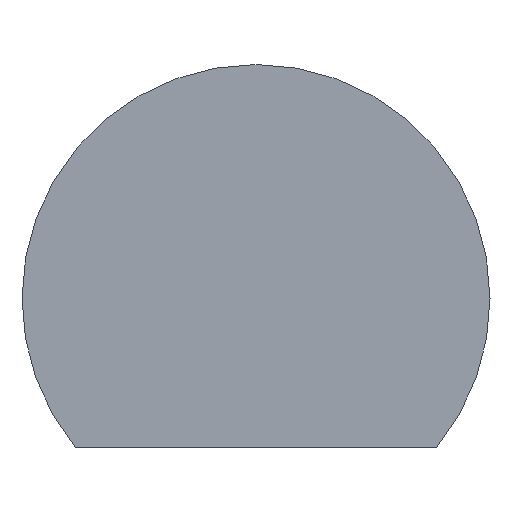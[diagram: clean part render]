
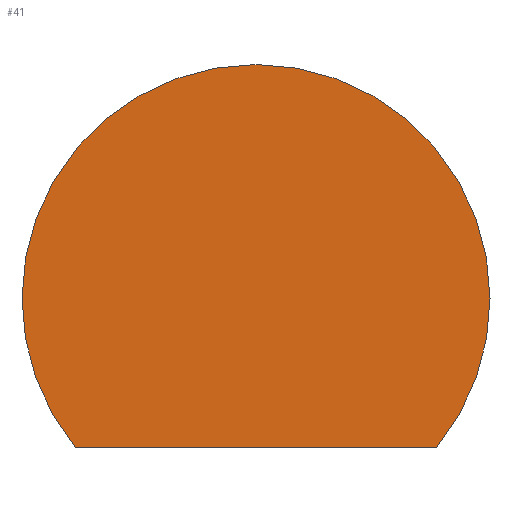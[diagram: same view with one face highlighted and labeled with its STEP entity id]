
A CAD part, left-side view. The second image highlights one B-rep face of the part: STEP entity #41.
In plain terms, the highlighted planar face has unit normal (-1, 0, 0).
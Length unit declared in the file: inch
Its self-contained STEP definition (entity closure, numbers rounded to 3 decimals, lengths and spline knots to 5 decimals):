
#19 = ORIENTED_EDGE ( 'NONE', *, *, #72, .T. ) ;
#20 = ORIENTED_EDGE ( 'NONE', *, *, #32, .T. ) ;
#31 = VERTEX_POINT ( 'NONE', #185 ) ;
#32 = EDGE_CURVE ( 'NONE', #31, #67, #183, .T. ) ;
#35 = ORIENTED_EDGE ( 'NONE', *, *, #36, .T. ) ;
#36 = EDGE_CURVE ( 'NONE', #67, #114, #228, .T. ) ;
#41 = ADVANCED_FACE ( 'NONE', ( #192 ), #194, .F. ) ;
#67 = VERTEX_POINT ( 'NONE', #246 ) ;
#72 = EDGE_CURVE ( 'NONE', #73, #31, #262, .T. ) ;
#73 = VERTEX_POINT ( 'NONE', #258 ) ;
#109 = EDGE_CURVE ( 'NONE', #73, #114, #381, .T. ) ;
#112 = ORIENTED_EDGE ( 'NONE', *, *, #109, .F. ) ;
#114 = VERTEX_POINT ( 'NONE', #386 ) ;
#116 = EDGE_LOOP ( 'NONE', ( #112, #19, #20, #35 ) ) ;
#179 = DIRECTION ( 'NONE',  ( 0., -1., 0. ) ) ;
#180 = DIRECTION ( 'NONE',  ( -1., 0., 0. ) ) ;
#181 = CARTESIAN_POINT ( 'NONE',  ( 0., 0., 0. ) ) ;
#182 = AXIS2_PLACEMENT_3D ( 'NONE', #181, #180, #179 ) ;
#183 = CIRCLE ( 'NONE', #182, 0.34375 ) ;
#185 = CARTESIAN_POINT ( 'NONE',  ( 0., -0.34375, 0. ) ) ;
#192 = FACE_OUTER_BOUND ( 'NONE', #116, .T. ) ;
#193 = AXIS2_PLACEMENT_3D ( 'NONE', #221, #220, #219 ) ;
#194 = PLANE ( 'NONE',  #193 ) ;
#195 = DIRECTION ( 'NONE',  ( 0., -1., 0. ) ) ;
#199 = AXIS2_PLACEMENT_3D ( 'NONE', #201, #200, #195 ) ;
#200 = DIRECTION ( 'NONE',  ( -1., 0., 0. ) ) ;
#201 = CARTESIAN_POINT ( 'NONE',  ( 0., 0., 0. ) ) ;
#219 = DIRECTION ( 'NONE',  ( 0., 1., 0. ) ) ;
#220 = DIRECTION ( 'NONE',  ( 1., 0., 0. ) ) ;
#221 = CARTESIAN_POINT ( 'NONE',  ( 0., 0., 0. ) ) ;
#228 = CIRCLE ( 'NONE', #199, 0.34375 ) ;
#246 = CARTESIAN_POINT ( 'NONE',  ( 0., 0.34375, 0. ) ) ;
#252 = CARTESIAN_POINT ( 'NONE',  ( 0., 0., 0. ) ) ;
#258 = CARTESIAN_POINT ( 'NONE',  ( 0., -0.26516, -0.21876 ) ) ;
#259 = DIRECTION ( 'NONE',  ( 0., -1., 0. ) ) ;
#260 = DIRECTION ( 'NONE',  ( -1., 0., 0. ) ) ;
#261 = AXIS2_PLACEMENT_3D ( 'NONE', #252, #260, #259 ) ;
#262 = CIRCLE ( 'NONE', #261, 0.34375 ) ;
#379 = DIRECTION ( 'NONE',  ( 0., 1., 0. ) ) ;
#380 = CARTESIAN_POINT ( 'NONE',  ( 0., 0., -0.21876 ) ) ;
#381 = LINE ( 'NONE', #380, #387 ) ;
#386 = CARTESIAN_POINT ( 'NONE',  ( 0., 0.26516, -0.21876 ) ) ;
#387 = VECTOR ( 'NONE', #379, 39.37008 ) ;
